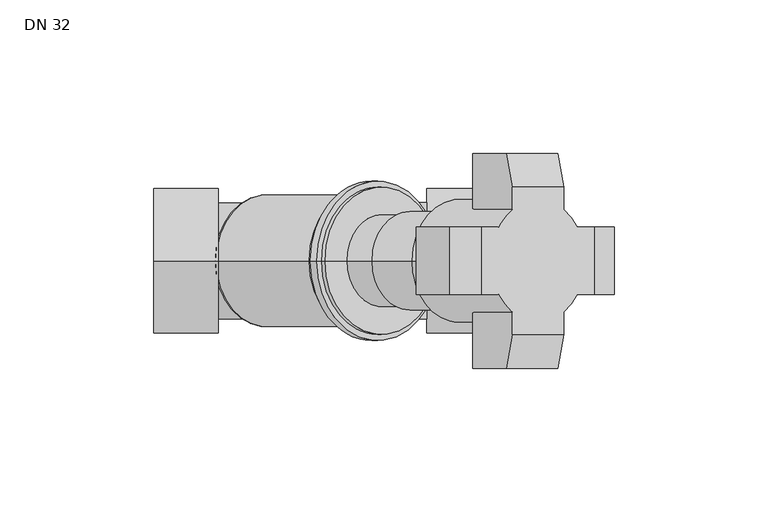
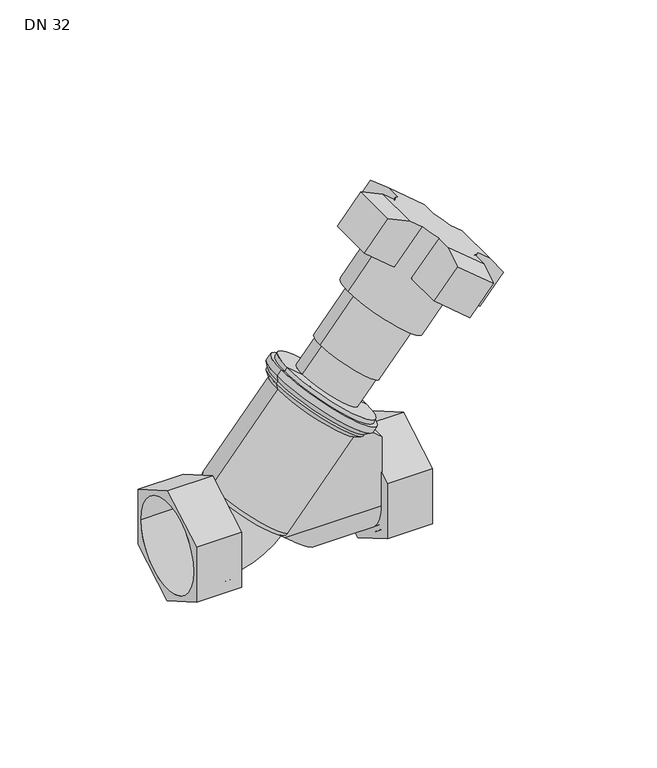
"""IFC4 building model written with IfcOpenShell, lengths in millimetres: valve geometry, 400_56_KOMF_VTR DN20-50 : DN 32."""

from ifc_helpers import new_model, si_unit, point, frame, origin, origin_2d, place, context, project, spatial, polyline, circle_curve, ellipse_curve, trimmed, segment, composite_curve, outline, extrude, source, transform, mapped, element, save
from ifc_brep_helpers import plane_surface, cylinder_surface, revolved_surface, advanced_brep


def dn_32_969b9d6f(model_context):
    return source(origin(), model_context, "Body", "SolidModel", [
        advanced_brep(
        [(-33.9, -23.5, 13.5677313), (-33.9, -23.5, -13.5677313), (-33.9, 0.0, -27.1354627), (-33.9, 23.5, -13.5677313), (-33.9, 23.5, 13.5677313), (-33.9, 0.0, 27.1354627), (-55.0, -23.5, 13.5677313), (-55.0, 0.0, 27.1354627), (-55.0, 23.5, 13.5677313), (-55.0, 23.5, -13.5677313), (-55.0, 0.0, -27.1354627), (-55.0, -23.5, -13.5677313), (-55.0, -21.2, 0.0), (-55.0, 21.2, 0.0), (-35.9, -21.2, 0.0), (-35.9, 21.2, 0.0)],
        [
            (0, 1),
            (1, 2),
            (2, 3),
            (3, 4),
            (4, 5),
            (5, 0),
            (6, 7),
            (7, 8),
            (8, 9),
            (9, 10),
            (10, 11),
            (11, 6),
            (12, 13, circle_curve(frame((-55.0, 0.0, 0.0), z_axis=(1.0, 0.0, 0.0), x_axis=(0.0, 1.0, 0.0)), 21.2)),
            (13, 12, circle_curve(frame((-55.0, 0.0, 0.0), z_axis=(1.0, 0.0, 0.0), x_axis=(0.0, 1.0, 0.0)), 21.2)),
            (0, 6),
            (11, 1),
            (10, 2),
            (9, 3),
            (8, 4),
            (7, 5),
            (14, 15, circle_curve(frame((-35.9, 0.0, 0.0), z_axis=(-1.0, 0.0, 0.0), x_axis=(0.0, 1.0, 0.0)), 21.2)),
            (15, 14, circle_curve(frame((-35.9, 0.0, 0.0), z_axis=(-1.0, 0.0, 0.0), x_axis=(0.0, 1.0, 0.0)), 21.2)),
            (15, 13),
            (12, 14),
        ],
        [
            plane_surface(frame((-33.9, -23.5, 13.5677313), z_axis=(1.0, 0.0, 0.0), x_axis=(0.0, 0.0, -1.0))),
            plane_surface(frame((-55.0, -23.5, 13.5677313), z_axis=(-1.0, 0.0, 0.0), x_axis=(0.0, 0.0, 1.0))),
            plane_surface(frame((-33.9, -23.5, 13.5677313), z_axis=(0.0, -1.0, 0.0), x_axis=(-1.0, 0.0, 0.0))),
            plane_surface(frame((-33.9, -23.5, -13.5677313), z_axis=(0.0, -0.5000000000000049, -0.8660254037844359), x_axis=(-1.0, 0.0, 0.0))),
            plane_surface(frame((-33.9, 0.0, -27.1354627), z_axis=(0.0, 0.5000000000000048, -0.8660254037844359), x_axis=(-1.0, 0.0, 0.0))),
            plane_surface(frame((-33.9, 23.5, -13.5677313), z_axis=(0.0, 1.0, 0.0), x_axis=(-1.0, 0.0, 0.0))),
            plane_surface(frame((-33.9, 23.5, 13.5677313), z_axis=(0.0, 0.500000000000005, 0.8660254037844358), x_axis=(-1.0, 0.0, 0.0))),
            plane_surface(frame((-33.9, 0.0, 27.1354627), z_axis=(0.0, -0.5000000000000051, 0.8660254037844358), x_axis=(-1.0, 0.0, 0.0))),
            plane_surface(frame((-35.9, 21.2, 0.0), z_axis=(-1.0, 0.0, 0.0), x_axis=(0.0, 0.0, 1.0))),
            revolved_surface(polyline([(-35.9, 21.2, 0.0), (-55.0, 21.2, 0.0)]), (-55.0, 0.0, 0.0), (1.0, 0.0, 0.0)),
        ],
        [
            (0, [[1, 2, 3, 4, 5, 6]]),
            (1, [[7, 8, 9, 10, 11, 12], [13, 14]]),
            (2, [[-1, 15, -12, 16]]),
            (3, [[-2, -16, -11, 17]]),
            (4, [[-3, -17, -10, 18]]),
            (5, [[-4, -18, -9, 19]]),
            (6, [[-5, -19, -8, 20]]),
            (7, [[-6, -20, -7, -15]]),
            (8, [[21, 22]]),
            (9, [[-22, 23, -13, 24]]),
            (9, [[-21, -24, -14, -23]]),
        ],
    ),
        advanced_brep(
        [(55.0, -23.5, 13.5677313), (55.0, -23.5, -13.5677313), (55.0, 0.0, -27.1354627), (55.0, 23.5, -13.5677313), (55.0, 23.5, 13.5677313), (55.0, 0.0, 27.1354627), (55.0, 21.2, 0.0), (55.0, -21.2, 0.0), (33.9, -23.5, 13.5677313), (33.9, 0.0, 27.1354627), (33.9, 23.5, 13.5677313), (33.9, 23.5, -13.5677313), (33.9, 0.0, -27.1354627), (33.9, -23.5, -13.5677313), (35.9, -21.2, 0.0), (35.9, 21.2, 0.0)],
        [
            (0, 1),
            (1, 2),
            (2, 3),
            (3, 4),
            (4, 5),
            (5, 0),
            (6, 7, circle_curve(frame((55.0, 0.0, 0.0), z_axis=(-1.0, 0.0, 0.0), x_axis=(0.0, 1.0, 0.0)), 21.2)),
            (7, 6, circle_curve(frame((55.0, 0.0, 0.0), z_axis=(-1.0, 0.0, 0.0), x_axis=(0.0, 1.0, 0.0)), 21.2)),
            (8, 9),
            (9, 10),
            (10, 11),
            (11, 12),
            (12, 13),
            (13, 8),
            (0, 8),
            (13, 1),
            (12, 2),
            (11, 3),
            (10, 4),
            (9, 5),
            (14, 15, circle_curve(frame((35.9, 0.0, 0.0), z_axis=(1.0, 0.0, 0.0), x_axis=(0.0, 1.0, 0.0)), 21.2)),
            (15, 14, circle_curve(frame((35.9, 0.0, 0.0), z_axis=(1.0, 0.0, 0.0), x_axis=(0.0, 1.0, 0.0)), 21.2)),
            (14, 7),
            (6, 15),
        ],
        [
            plane_surface(frame((55.0, -23.5, 13.5677313), z_axis=(1.0, 0.0, 0.0), x_axis=(0.0, 0.0, -1.0))),
            plane_surface(frame((33.9, -23.5, 13.5677313), z_axis=(-1.0, 0.0, 0.0), x_axis=(0.0, 0.0, 1.0))),
            plane_surface(frame((55.0, -23.5, 13.5677313), z_axis=(0.0, -1.0, 0.0), x_axis=(-1.0, 0.0, 0.0))),
            plane_surface(frame((55.0, -23.5, -13.5677313), z_axis=(0.0, -0.5000000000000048, -0.8660254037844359), x_axis=(-1.0, 0.0, 0.0))),
            plane_surface(frame((55.0, 0.0, -27.1354627), z_axis=(0.0, 0.5000000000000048, -0.8660254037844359), x_axis=(-1.0, 0.0, 0.0))),
            plane_surface(frame((55.0, 23.5, -13.5677313), z_axis=(0.0, 1.0, 0.0), x_axis=(-1.0, 0.0, 0.0))),
            plane_surface(frame((55.0, 23.5, 13.5677313), z_axis=(0.0, 0.5000000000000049, 0.8660254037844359), x_axis=(-1.0, 0.0, 0.0))),
            plane_surface(frame((55.0, 0.0, 27.1354627), z_axis=(0.0, -0.5000000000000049, 0.8660254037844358), x_axis=(-1.0, 0.0, 0.0))),
            plane_surface(frame((35.9, 21.2, 0.0), z_axis=(1.0, 0.0, 0.0), x_axis=(0.0, 0.0, -1.0))),
            revolved_surface(polyline([(55.0, 21.2, 0.0), (35.9, 21.2, 0.0)]), (35.9, 0.0, 0.0), (1.0, 0.0, 0.0)),
        ],
        [
            (0, [[1, 2, 3, 4, 5, 6], [7, 8]]),
            (1, [[9, 10, 11, 12, 13, 14]]),
            (2, [[-1, 15, -14, 16]]),
            (3, [[-2, -16, -13, 17]]),
            (4, [[-3, -17, -12, 18]]),
            (5, [[-4, -18, -11, 19]]),
            (6, [[-5, -19, -10, 20]]),
            (7, [[-6, -20, -9, -15]]),
            (8, [[21, 22]]),
            (9, [[-21, 23, -7, 24]]),
            (9, [[-22, -24, -8, -23]]),
        ],
    ),
        extrude(outline(polyline([(19.0, 35.9), (38.6390767, 32.9270418), (51.2176131, 17.9365258), (0.0, 20.5983845), (0.0, 35.9), (19.0, 35.9)])), frame((0.0, -2.0, 0.0), z_axis=(0.0, 1.0, 0.0), x_axis=(0.0, 0.0, 1.0)), (0.0, 0.0, 1.0), 4.0),
        extrude(outline(composite_curve([segment(trimmed(circle_curve(origin_2d(), 21.2), [point((0.0, -21.2))], [point((0.0, 21.2))], False, "CARTESIAN"), True, "CONTINUOUS"), segment(trimmed(circle_curve(origin_2d(), 21.2), [point((0.0, 21.2))], [point((0.0, -21.2))], False, "CARTESIAN"), True, "CONTINUOUS")], self_intersect=False)), frame((33.9, 0.0, 0.0), z_axis=(1.0, 0.0, 0.0), x_axis=(0.0, 1.0, 0.0)), (0.0, 0.0, 1.0), 2.0),
        advanced_brep(
        [(19.222101, 0.0, 52.749702), (37.6071676, 0.0, 37.3227994), (0.8370344, 0.0, 68.1766046), (-34.2830222, 0.0, 19.3213938), (-4.4072889, 0.0, -5.747323), (-19.3451556, 0.0, 6.7870354), (-3.6757306, 0.0, 58.9091912), (29.2641804, 0.0, 31.269324), (-1.5896248, 0.0, -5.5008093), (-34.5295359, 0.0, 22.1390579), (-4.3052665, 0.0, 62.0482491), (32.4648668, 0.0, 31.1944438), (-3.6624789, 0.0, 62.8142935), (33.1076544, 0.0, 31.9604883), (-3.9089926, 0.0, 65.6319576), (35.9253185, 0.0, 32.2070019), (-1.9806297, 0.0, 67.930091), (37.8536813, 0.0, 34.5051353), (-0.4485409, 0.0, 66.6445157), (36.3215924, 0.0, 35.7907105)],
        [
            (0, 1),
            (1, 2, circle_curve(frame((19.222101, 0.0, 52.749702), z_axis=(0.6427876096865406, 0.0, 0.7660444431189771), x_axis=(0.7660444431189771, 0.0, -0.6427876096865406)), 24.0)),
            (2, 0),
            (2, 1, circle_curve(frame((19.222101, 0.0, 52.749702), z_axis=(0.6427876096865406, 0.0, 0.7660444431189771), x_axis=(0.7660444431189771, 0.0, -0.6427876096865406)), 24.0)),
            (3, 4, circle_curve(frame((-19.3451556, 0.0, 6.7870354), z_axis=(-0.6427876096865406, 0.0, -0.7660444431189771), x_axis=(0.7660444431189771, 0.0, -0.6427876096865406)), 19.5)),
            (4, 5),
            (5, 3),
            (4, 3, circle_curve(frame((-19.3451556, 0.0, 6.7870354), z_axis=(-0.6427876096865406, 0.0, -0.7660444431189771), x_axis=(0.7660444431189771, 0.0, -0.6427876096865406)), 19.5)),
            (6, 7, circle_curve(frame((12.7942249, 0.0, 45.0892576), z_axis=(-0.6427876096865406, 0.0, -0.7660444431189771), x_axis=(0.7660444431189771, 0.0, -0.6427876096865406)), 21.5)),
            (7, 8),
            (8, 9, circle_curve(frame((-18.0595804, 0.0, 8.3191243), z_axis=(0.6427876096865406, 0.0, 0.7660444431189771), x_axis=(0.7660444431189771, 0.0, -0.6427876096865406)), 21.5)),
            (9, 6),
            (7, 6, circle_curve(frame((12.7942249, 0.0, 45.0892576), z_axis=(-0.6427876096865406, 0.0, -0.7660444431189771), x_axis=(0.7660444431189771, 0.0, -0.6427876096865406)), 21.5)),
            (9, 8, circle_curve(frame((-18.0595804, 0.0, 8.3191243), z_axis=(0.6427876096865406, 0.0, 0.7660444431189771), x_axis=(0.7660444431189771, 0.0, -0.6427876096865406)), 21.5)),
            (6, 10),
            (10, 11, circle_curve(frame((14.0798001, 0.0, 46.6213465), z_axis=(-0.6427876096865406, 0.0, -0.7660444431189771), x_axis=(0.7660444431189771, 0.0, -0.6427876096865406)), 24.0)),
            (11, 7),
            (11, 10, circle_curve(frame((14.0798001, 0.0, 46.6213465), z_axis=(-0.6427876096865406, 0.0, -0.7660444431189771), x_axis=(0.7660444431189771, 0.0, -0.6427876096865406)), 24.0)),
            (10, 12),
            (12, 13, circle_curve(frame((14.7225877, 0.0, 47.3873909), z_axis=(-0.6427876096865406, 0.0, -0.7660444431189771), x_axis=(0.7660444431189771, 0.0, -0.6427876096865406)), 24.0)),
            (13, 11),
            (13, 12, circle_curve(frame((14.7225877, 0.0, 47.3873909), z_axis=(-0.6427876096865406, 0.0, -0.7660444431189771), x_axis=(0.7660444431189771, 0.0, -0.6427876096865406)), 24.0)),
            (12, 14),
            (14, 15, circle_curve(frame((16.008163, 0.0, 48.9194798), z_axis=(-0.6427876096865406, 0.0, -0.7660444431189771), x_axis=(0.7660444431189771, 0.0, -0.6427876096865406)), 26.0)),
            (15, 13),
            (15, 14, circle_curve(frame((16.008163, 0.0, 48.9194798), z_axis=(-0.6427876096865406, 0.0, -0.7660444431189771), x_axis=(0.7660444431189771, 0.0, -0.6427876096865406)), 26.0)),
            (14, 16),
            (16, 17, circle_curve(frame((17.9365258, 0.0, 51.2176131), z_axis=(-0.6427876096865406, 0.0, -0.7660444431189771), x_axis=(0.7660444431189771, 0.0, -0.6427876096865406)), 26.0)),
            (17, 15),
            (17, 16, circle_curve(frame((17.9365258, 0.0, 51.2176131), z_axis=(-0.6427876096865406, 0.0, -0.7660444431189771), x_axis=(0.7660444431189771, 0.0, -0.6427876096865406)), 26.0)),
            (16, 18),
            (18, 19, circle_curve(frame((17.9365258, 0.0, 51.2176131), z_axis=(-0.6427876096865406, 0.0, -0.7660444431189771), x_axis=(0.7660444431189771, 0.0, -0.6427876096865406)), 24.0)),
            (19, 17),
            (19, 18, circle_curve(frame((17.9365258, 0.0, 51.2176131), z_axis=(-0.6427876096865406, 0.0, -0.7660444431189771), x_axis=(0.7660444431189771, 0.0, -0.6427876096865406)), 24.0)),
            (1, 19),
            (18, 2),
            (3, 9, circle_curve(frame((-32.997447, 0.0, 20.8534827), z_axis=(0.0, 1.0000000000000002, 0.0), x_axis=(0.6427876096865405, 0.0, 0.7660444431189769)), 2.0)),
            (8, 4, circle_curve(frame((-3.1217137, 0.0, -4.2152341), z_axis=(0.0, 1.0000000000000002, 0.0), x_axis=(0.6427876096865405, 0.0, 0.7660444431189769)), 2.0)),
        ],
        [
            plane_surface(frame((19.222101, 0.0, 52.749702), z_axis=(0.6427876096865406, 0.0, 0.7660444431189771), x_axis=(0.7660444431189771, 0.0, -0.6427876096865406))),
            plane_surface(frame((-19.3451556, 0.0, 6.7870354), z_axis=(-0.6427876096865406, 0.0, -0.7660444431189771), x_axis=(0.7660444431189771, 0.0, -0.6427876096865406))),
            cylinder_surface(frame((-25.0401545, 0.0, 0.0), z_axis=(0.6427876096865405, 0.0, 0.7660444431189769), x_axis=(0.7660444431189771, 0.0, -0.6427876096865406)), 21.5),
            revolved_surface(polyline([(29.2641804, 0.0, 31.269324), (32.4648668, 0.0, 31.1944438)]), (-25.0401545, 0.0, 0.0), (0.6427876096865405, 0.0, 0.7660444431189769)),
            cylinder_surface(frame((-25.0401545, 0.0, 0.0), z_axis=(0.6427876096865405, 0.0, 0.7660444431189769), x_axis=(0.7660444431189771, 0.0, -0.6427876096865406)), 24.0),
            revolved_surface(polyline([(33.1076544, 0.0, 31.9604883), (35.9253185, 0.0, 32.2070019)]), (-25.0401545, 0.0, 0.0), (0.6427876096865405, 0.0, 0.7660444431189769)),
            cylinder_surface(frame((-25.0401545, 0.0, 0.0), z_axis=(0.6427876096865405, 0.0, 0.7660444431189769), x_axis=(0.7660444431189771, 0.0, -0.6427876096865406)), 26.0),
            plane_surface(frame((17.9365258, 0.0, 51.2176131), z_axis=(0.6427876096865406, 0.0, 0.7660444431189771), x_axis=(0.7660444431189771, 0.0, -0.6427876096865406))),
            revolved_surface(trimmed(ellipse_curve(frame((-3.1217137, 0.0, -4.2152341), z_axis=(0.0, -1.0000000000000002, 0.0), x_axis=(0.6427876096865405, 0.0, 0.7660444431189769)), 2.0, 2.0), [point((-4.4072889, 0.0, -5.747323))], [point((-1.5896248, 0.0, -5.5008093))], True, "CARTESIAN"), (-25.0401545, 0.0, 0.0), (0.6427876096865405, 0.0, 0.7660444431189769)),
        ],
        [
            (0, [[1, 2, 3]]),
            (0, [[-1, -3, 4]]),
            (1, [[5, 6, 7]]),
            (1, [[-6, 8, -7]]),
            (2, [[9, 10, 11, 12]]),
            (2, [[-10, 13, -12, 14]]),
            (3, [[-9, 15, 16, 17]]),
            (3, [[-13, -17, 18, -15]]),
            (4, [[-16, 19, 20, 21]]),
            (4, [[-18, -21, 22, -19]]),
            (5, [[-20, 23, 24, 25]]),
            (5, [[-22, -25, 26, -23]]),
            (6, [[-24, 27, 28, 29]]),
            (6, [[-26, -29, 30, -27]]),
            (7, [[-28, 31, 32, 33]]),
            (7, [[-30, -33, 34, -31]]),
            (4, [[-2, 35, -32, 36]]),
            (4, [[-4, -36, -34, -35]]),
            (8, [[-5, 37, -11, 38]]),
            (8, [[-8, -38, -14, -37]]),
        ],
    ),
        advanced_brep(
        [(16.9278345, 0.0, 73.351359), (39.9091677, 0.0, 54.0677307), (30.7127676, 0.0, 43.1078879), (7.7314344, 0.0, 62.3915161), (16.16179, 0.0, 73.9941466), (40.6752122, 0.0, 53.4249431), (32.2314803, 0.0, 93.1452577), (56.7449024, 0.0, 72.5760542), (29.1673025, 0.0, 95.7164081), (59.8090802, 0.0, 70.0049037), (42.0230547, 0.0, 111.037297), (44.5484787, 11.0, 108.9182146), (57.4042309, 11.0, 124.2391035), (61.7732069, 16.7032931, 120.5730974), (48.9174547, 16.7032931, 105.2522085), (65.7704324, 16.7032931, 91.1108811), (78.6261846, 16.7032931, 106.43177), (82.9951606, 11.0, 102.7657638), (70.1394084, 11.0, 87.444875), (72.6648324, 0.0, 85.3257926), (70.1394084, -11.0, 87.444875), (82.9951606, -11.0, 102.7657638), (78.6261846, -16.7032931, 106.43177), (65.7704324, -16.7032931, 91.1108811), (48.9174547, -16.7032931, 105.2522085), (61.7732069, -16.7032931, 120.5730974), (57.4042309, -11.0, 124.2391035), (44.5484787, -11.0, 108.9182146), (88.5847624, -11.0, 98.075531), (88.5847624, 11.0, 98.075531), (78.6261846, 24.0, 106.43177), (61.7732069, 24.0, 120.5730974), (51.8146291, 11.0, 128.9293363), (51.8146291, -11.0, 128.9293363), (61.7732069, -24.0, 120.5730974), (78.6261846, -24.0, 106.43177), (19.222101, 0.0, 52.749702), (41.4597774, -11.0, 133.7018667), (30.532388, -11.0, 120.6791111), (84.155499, -11.0, 75.6839785), (95.0828884, -11.0, 88.706734), (95.0828884, 11.0, 88.706734), (84.155499, 11.0, 75.6839785), (30.532388, 11.0, 120.6791111), (41.4597774, 11.0, 133.7018667), (65.7704324, 35.0, 91.1108811), (76.6978218, 35.0, 104.1336366), (76.6978218, -35.0, 104.1336366), (65.7704324, -35.0, 91.1108811), (48.9174547, -35.0, 105.2522085), (59.844844, -35.0, 118.274964), (59.844844, 35.0, 118.274964), (48.9174547, 35.0, 105.2522085)],
        [
            (0, 1, circle_curve(frame((28.4185011, 0.0, 63.7095449), z_axis=(-0.6427876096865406, 0.0, -0.7660444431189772), x_axis=(0.7660444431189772, 0.0, -0.6427876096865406)), 15.0)),
            (1, 2),
            (2, 3, circle_curve(frame((19.222101, 0.0, 52.749702), z_axis=(0.6427876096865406, 0.0, 0.7660444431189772), x_axis=(0.7660444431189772, 0.0, -0.6427876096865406)), 15.0)),
            (3, 0),
            (1, 0, circle_curve(frame((28.4185011, 0.0, 63.7095449), z_axis=(-0.6427876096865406, 0.0, -0.7660444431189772), x_axis=(0.7660444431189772, 0.0, -0.6427876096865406)), 15.0)),
            (3, 2, circle_curve(frame((19.222101, 0.0, 52.749702), z_axis=(0.6427876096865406, 0.0, 0.7660444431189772), x_axis=(0.7660444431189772, 0.0, -0.6427876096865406)), 15.0)),
            (0, 4),
            (4, 5, circle_curve(frame((28.4185011, 0.0, 63.7095449), z_axis=(-0.6427876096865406, 0.0, -0.7660444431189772), x_axis=(0.7660444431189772, 0.0, -0.6427876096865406)), 16.0)),
            (5, 1),
            (5, 4, circle_curve(frame((28.4185011, 0.0, 63.7095449), z_axis=(-0.6427876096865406, 0.0, -0.7660444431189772), x_axis=(0.7660444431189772, 0.0, -0.6427876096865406)), 16.0)),
            (4, 6),
            (6, 7, circle_curve(frame((44.4881913, 0.0, 82.8606559), z_axis=(-0.6427876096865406, 0.0, -0.7660444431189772), x_axis=(0.7660444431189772, 0.0, -0.6427876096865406)), 16.0)),
            (7, 5),
            (7, 6, circle_curve(frame((44.4881913, 0.0, 82.8606559), z_axis=(-0.6427876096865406, 0.0, -0.7660444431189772), x_axis=(0.7660444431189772, 0.0, -0.6427876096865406)), 16.0)),
            (6, 8),
            (8, 9, circle_curve(frame((44.4881913, 0.0, 82.8606559), z_axis=(-0.6427876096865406, 0.0, -0.7660444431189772), x_axis=(0.7660444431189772, 0.0, -0.6427876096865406)), 20.0)),
            (9, 7),
            (9, 8, circle_curve(frame((44.4881913, 0.0, 82.8606559), z_axis=(-0.6427876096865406, 0.0, -0.7660444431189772), x_axis=(0.7660444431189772, 0.0, -0.6427876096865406)), 20.0)),
            (8, 10),
            (10, 11, circle_curve(frame((57.3439435, 0.0, 98.1815448), z_axis=(-0.6427876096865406, 0.0, -0.7660444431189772), x_axis=(0.7660444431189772, 0.0, -0.6427876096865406)), 20.0)),
            (11, 12),
            (12, 13, circle_curve(frame((70.1996957, 0.0, 113.5024337), z_axis=(-0.6427876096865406, 0.0, -0.7660444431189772), x_axis=(0.7660444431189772, 0.0, -0.6427876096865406)), 20.0)),
            (13, 14),
            (14, 15, circle_curve(frame((57.3439435, 0.0, 98.1815448), z_axis=(-0.6427876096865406, 0.0, -0.7660444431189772), x_axis=(0.7660444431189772, 0.0, -0.6427876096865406)), 20.0)),
            (15, 16),
            (16, 17, circle_curve(frame((70.1996957, 0.0, 113.5024337), z_axis=(-0.6427876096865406, 0.0, -0.7660444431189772), x_axis=(0.7660444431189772, 0.0, -0.6427876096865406)), 20.0)),
            (17, 18),
            (18, 19, circle_curve(frame((57.3439435, 0.0, 98.1815448), z_axis=(-0.6427876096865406, 0.0, -0.7660444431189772), x_axis=(0.7660444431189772, 0.0, -0.6427876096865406)), 20.0)),
            (19, 9),
            (19, 20, circle_curve(frame((57.3439435, 0.0, 98.1815448), z_axis=(-0.6427876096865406, 0.0, -0.7660444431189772), x_axis=(0.7660444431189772, 0.0, -0.6427876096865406)), 20.0)),
            (20, 21),
            (21, 22, circle_curve(frame((70.1996957, 0.0, 113.5024337), z_axis=(-0.6427876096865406, 0.0, -0.7660444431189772), x_axis=(0.7660444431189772, 0.0, -0.6427876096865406)), 20.0)),
            (22, 23),
            (23, 24, circle_curve(frame((57.3439435, 0.0, 98.1815448), z_axis=(-0.6427876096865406, 0.0, -0.7660444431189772), x_axis=(0.7660444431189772, 0.0, -0.6427876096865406)), 20.0)),
            (24, 25),
            (25, 26, circle_curve(frame((70.1996957, 0.0, 113.5024337), z_axis=(-0.6427876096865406, 0.0, -0.7660444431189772), x_axis=(0.7660444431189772, 0.0, -0.6427876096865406)), 20.0)),
            (26, 27),
            (27, 10, circle_curve(frame((57.3439435, 0.0, 98.1815448), z_axis=(-0.6427876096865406, 0.0, -0.7660444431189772), x_axis=(0.7660444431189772, 0.0, -0.6427876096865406)), 20.0)),
            (28, 29),
            (29, 17),
            (16, 30),
            (30, 31),
            (31, 13),
            (12, 32),
            (32, 33),
            (33, 26),
            (25, 34),
            (34, 35),
            (35, 22),
            (21, 28),
            (2, 36),
            (36, 3),
            (33, 37),
            (37, 38),
            (38, 27),
            (39, 40),
            (40, 28),
            (20, 39),
            (29, 41),
            (41, 42),
            (42, 18),
            (43, 44),
            (44, 32),
            (11, 43),
            (44, 37),
            (43, 38),
            (42, 39),
            (41, 40),
            (45, 46),
            (46, 30),
            (15, 45),
            (35, 47),
            (47, 48),
            (48, 23),
            (49, 50),
            (50, 34),
            (24, 49),
            (31, 51),
            (51, 52),
            (52, 14),
            (45, 52),
            (51, 46),
            (50, 47),
            (49, 48),
        ],
        [
            cylinder_surface(frame((-25.0401545, 0.0, 0.0), z_axis=(0.6427876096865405, 0.0, 0.766044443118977), x_axis=(0.7660444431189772, 0.0, -0.6427876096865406)), 15.0),
            plane_surface(frame((28.4185011, 0.0, 63.7095449), z_axis=(-0.6427876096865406, 0.0, -0.7660444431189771), x_axis=(0.7660444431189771, 0.0, -0.6427876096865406))),
            cylinder_surface(frame((-25.0401545, 0.0, 0.0), z_axis=(0.6427876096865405, 0.0, 0.766044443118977), x_axis=(0.7660444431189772, 0.0, -0.6427876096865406)), 16.0),
            plane_surface(frame((44.4881913, 0.0, 82.8606559), z_axis=(-0.6427876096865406, 0.0, -0.7660444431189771), x_axis=(0.7660444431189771, 0.0, -0.6427876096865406))),
            cylinder_surface(frame((-25.0401545, 0.0, 0.0), z_axis=(0.6427876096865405, 0.0, 0.766044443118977), x_axis=(0.7660444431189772, 0.0, -0.6427876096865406)), 20.0),
            plane_surface(frame((70.1996957, 0.0, 113.5024337), z_axis=(0.6427876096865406, 0.0, 0.7660444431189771), x_axis=(0.7660444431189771, 0.0, -0.6427876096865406))),
            plane_surface(frame((19.222101, 0.0, 52.749702), z_axis=(-0.6427876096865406, 0.0, -0.7660444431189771), x_axis=(0.7660444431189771, 0.0, -0.6427876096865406))),
            plane_surface(frame((51.8146291, -11.0, 128.9293363), z_axis=(0.0, -1.0, 0.0), x_axis=(-0.7660444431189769, 0.0, 0.6427876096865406))),
            plane_surface(frame((51.8146291, 11.0, 128.9293363), z_axis=(0.0, 1.0, 0.0), x_axis=(0.7660444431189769, 0.0, -0.6427876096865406))),
            plane_surface(frame((51.8146291, -11.0, 128.9293363), z_axis=(0.4185786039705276, 0.0, 0.9081805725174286), x_axis=(0.0, 1.0, 0.0))),
            plane_surface(frame((41.4597774, -11.0, 133.7018667), z_axis=(-0.7660444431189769, 0.0, 0.6427876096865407), x_axis=(0.0, 1.0, 0.0))),
            plane_surface(frame((30.532388, -11.0, 120.6791111), z_axis=(-0.6427876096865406, 0.0, -0.7660444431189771), x_axis=(0.0, 1.0, 0.0))),
            plane_surface(frame((84.155499, -11.0, 75.6839785), z_axis=(0.7660444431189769, 0.0, -0.6427876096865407), x_axis=(0.0, 1.0, 0.0))),
            plane_surface(frame((95.0828884, -11.0, 88.706734), z_axis=(0.821697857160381, 0.0, 0.5699233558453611), x_axis=(0.0, 1.0, 0.0))),
            plane_surface(frame((76.6978218, 35.0, 104.1336366), z_axis=(0.766044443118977, 0.0, -0.6427876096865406), x_axis=(0.6427876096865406, 0.0, 0.766044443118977))),
            plane_surface(frame((59.844844, 35.0, 118.274964), z_axis=(-0.766044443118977, 0.0, 0.6427876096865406), x_axis=(-0.6427876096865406, 0.0, -0.766044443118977))),
            plane_surface(frame((65.7704324, 35.0, 91.1108811), z_axis=(0.0, 1.0, 0.0), x_axis=(-0.7660444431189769, 0.0, 0.6427876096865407))),
            plane_surface(frame((76.6978218, 35.0, 104.1336366), z_axis=(0.6201382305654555, 0.2631174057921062, 0.7390519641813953), x_axis=(-0.7660444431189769, 0.0, 0.6427876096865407))),
            plane_surface(frame((78.6261846, -24.0, 106.43177), z_axis=(0.6201382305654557, -0.26311740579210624, 0.7390519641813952), x_axis=(-0.7660444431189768, 0.0, 0.642787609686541))),
            plane_surface(frame((76.6978218, -35.0, 104.1336366), z_axis=(0.0, -1.0, 0.0), x_axis=(-0.7660444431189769, 0.0, 0.6427876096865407))),
            plane_surface(frame((65.7704324, -35.0, 91.1108811), z_axis=(-0.6427876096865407, 0.0, -0.7660444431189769), x_axis=(-0.7660444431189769, 0.0, 0.6427876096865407))),
        ],
        [
            (0, [[1, 2, 3, 4]]),
            (0, [[-2, 5, -4, 6]]),
            (1, [[-1, 7, 8, 9]]),
            (1, [[-5, -9, 10, -7]]),
            (2, [[-8, 11, 12, 13]]),
            (2, [[-10, -13, 14, -11]]),
            (3, [[-12, 15, 16, 17]]),
            (3, [[-14, -17, 18, -15]]),
            (4, [[-16, 19, 20, 21, 22, 23, 24, 25, 26, 27, 28, 29]]),
            (4, [[-18, -29, 30, 31, 32, 33, 34, 35, 36, 37, 38, -19]]),
            (5, [[39, 40, -26, 41, 42, 43, -22, 44, 45, 46, -36, 47, 48, 49, -32, 50]]),
            (6, [[-3, 51, 52]]),
            (6, [[-6, -52, -51]]),
            (7, [[53, 54, 55, -37, -46]]),
            (7, [[56, 57, -50, -31, 58]]),
            (8, [[59, 60, 61, -27, -40]]),
            (8, [[62, 63, -44, -21, 64]]),
            (9, [[-53, -45, -63, 65]]),
            (10, [[-54, -65, -62, 66]]),
            (11, [[-66, -64, -20, -38, -55]]),
            (11, [[67, -58, -30, -28, -61]]),
            (12, [[-56, -67, -60, 68]]),
            (13, [[-57, -68, -59, -39]]),
            (14, [[69, 70, -41, -25, 71]]),
            (14, [[72, 73, 74, -33, -49]]),
            (15, [[75, 76, -47, -35, 77]]),
            (15, [[78, 79, 80, -23, -43]]),
            (16, [[-69, 81, -79, 82]]),
            (17, [[-70, -82, -78, -42]]),
            (18, [[-72, -48, -76, 83]]),
            (19, [[-73, -83, -75, 84]]),
            (20, [[-81, -71, -24, -80]]),
            (20, [[-84, -77, -34, -74]]),
        ],
    ),
        extrude(outline(composite_curve([segment(trimmed(circle_curve(origin_2d(), 21.2), [point((0.0, -21.2))], [point((0.0, 21.2))], False, "CARTESIAN"), True, "CONTINUOUS"), segment(trimmed(circle_curve(origin_2d(), 21.2), [point((0.0, 21.2))], [point((0.0, -21.2))], False, "CARTESIAN"), True, "CONTINUOUS")], self_intersect=False)), frame((-35.9, 0.0, 0.0), z_axis=(1.0, 0.0, 0.0), x_axis=(0.0, 1.0, 0.0)), (0.0, 0.0, 1.0), 2.0),
        advanced_brep(
        [(-33.9, 0.0, -19.0), (-33.9, 0.0, 19.0), (-4.7903112, 0.0, -5.4259292)],
        [
            (0, 1, circle_curve(frame((-33.9, 0.0, 0.0), z_axis=(-1.0, 0.0, 0.0), x_axis=(0.0, 0.0, 1.0)), 19.0)),
            (1, 0, circle_curve(frame((-33.9, 0.0, 0.0), z_axis=(-1.0, 0.0, 0.0), x_axis=(0.0, 0.0, 1.0)), 19.0)),
            (2, 1, circle_curve(frame((-19.3451556, 0.0, 6.7870354), z_axis=(0.6427876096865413, 0.0, 0.7660444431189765), x_axis=(-0.7660444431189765, 0.0, 0.6427876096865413)), 19.0)),
            (1, 2, circle_curve(frame((-19.3451556, 0.0, 6.7870354), z_axis=(0.6427876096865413, 0.0, 0.7660444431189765), x_axis=(-0.7660444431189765, 0.0, 0.6427876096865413)), 19.0)),
            (2, 0, circle_curve(frame((-33.9, 0.0, 19.0), z_axis=(0.0, 1.0, 0.0), x_axis=(0.0, 0.0, -1.0)), 38.0)),
        ],
        [
            plane_surface(frame((-33.9, 1427.1039728, 19.0), z_axis=(-1.0, 0.0, 0.0), x_axis=(0.0, 0.0, -1.0))),
            plane_surface(frame((-33.9, 1427.1039728, 19.0), z_axis=(0.6427876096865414, 0.0, 0.7660444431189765), x_axis=(0.7660444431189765, 0.0, -0.6427876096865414))),
            revolved_surface(trimmed(ellipse_curve(frame((-33.9, 0.0, 0.0), z_axis=(1.0, 0.0, 0.0), x_axis=(0.0, 0.0, 1.0)), 19.0, 19.0), [point((-33.9, 0.0, -19.0))], [point((-33.9, 0.0, 19.0))], True, "CARTESIAN"), (-33.9, 1427.1039728, 19.0), (0.0, 1.0, 0.0)),
            revolved_surface(trimmed(ellipse_curve(frame((-33.9, 0.0, 0.0), z_axis=(1.0, 0.0, 0.0), x_axis=(0.0, 0.0, 1.0)), 19.0, 19.0), [point((-33.9, 0.0, 19.0))], [point((-33.9, 0.0, -19.0))], True, "CARTESIAN"), (-33.9, 1427.1039728, 19.0), (0.0, 1.0, 0.0)),
        ],
        [
            (0, [[1, 2]]),
            (1, [[3, 4]]),
            (2, [[5, -2, -3]]),
            (3, [[-1, -5, -4]]),
        ],
    ),
        advanced_brep(
        [(35.9, -19.0, 0.0), (35.9, 19.0, 0.0), (33.9, -19.0, 0.0), (-11.2566817, -19.0, 0.0), (-11.2566817, 19.0, 0.0), (33.9, 19.0, 0.0), (-19.3451556, 17.7464405, 6.7870354), (-19.3451556, -17.7464405, 6.7870354), (-19.3451556, -19.0, 6.7870354), (-19.3451556, 19.0, 6.7870354), (33.9, -19.0, 33.9064459), (16.008163, -19.0, 48.9194798), (33.9, 19.0, 33.9064459), (16.008163, 19.0, 48.9194798)],
        [
            (0, 1, circle_curve(frame((35.9, 0.0, 0.0), z_axis=(1.0, 0.0, 0.0), x_axis=(0.0, 1.0, 0.0)), 19.0)),
            (1, 0, circle_curve(frame((35.9, 0.0, 0.0), z_axis=(1.0, 0.0, 0.0), x_axis=(0.0, 1.0, 0.0)), 19.0)),
            (0, 2),
            (2, 3),
            (3, 4, ellipse_curve(frame((-11.2566817, 0.0, 0.0), z_axis=(0.6427876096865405, 0.0, 0.7660444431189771), x_axis=(0.766044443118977, 0.0, -0.6427876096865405)), 29.5587527, 19.0)),
            (4, 5),
            (5, 1),
            (5, 2, circle_curve(frame((33.9, 0.0, 0.0), z_axis=(1.0, 0.0, 0.0), x_axis=(0.0, 1.0, 0.0)), 19.0)),
            (6, 7, ellipse_curve(frame((-11.2566817, 0.0, 0.0), z_axis=(0.6427876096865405, 0.0, 0.7660444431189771), x_axis=(0.766044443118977, 0.0, -0.6427876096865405)), 29.5587527, 19.0)),
            (7, 6, ellipse_curve(frame((-25.0401545, 0.0, 0.0), z_axis=(-0.7660444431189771, 0.0, 0.6427876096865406), x_axis=(0.6427876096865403, 0.0, 0.7660444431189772)), 24.8027385, 19.0)),
            (3, 8),
            (8, 7),
            (6, 9),
            (9, 4),
            (10, 11),
            (11, 8),
            (2, 10),
            (12, 5),
            (9, 13),
            (13, 12),
            (10, 12),
            (13, 11),
        ],
        [
            plane_surface(frame((35.9, 19.0, 0.0), z_axis=(1.0, 0.0, 0.0), x_axis=(0.0, 0.0, 1.0))),
            cylinder_surface(frame((-35.9, 0.0, 0.0), z_axis=(1.0, 0.0, 0.0), x_axis=(0.0, 1.0, 0.0)), 19.0),
            plane_surface(frame((-19.3451556, 0.0, 6.7870354), z_axis=(-0.6427876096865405, 0.0, -0.7660444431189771), x_axis=(0.7660444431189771, 0.0, -0.6427876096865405))),
            plane_surface(frame((16.008163, -19.0, 48.9194798), z_axis=(0.0, -1.0000000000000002, 0.0), x_axis=(-0.766044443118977, 0.0, 0.6427876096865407))),
            plane_surface(frame((16.008163, 19.0, 48.9194798), z_axis=(0.0, 1.0000000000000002, 0.0), x_axis=(0.766044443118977, 0.0, -0.6427876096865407))),
            plane_surface(frame((33.9, -19.0, 33.9064459), z_axis=(0.6427876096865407, 0.0, 0.766044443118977), x_axis=(0.0, 1.0, 0.0))),
            plane_surface(frame((16.008163, -19.0, 48.9194798), z_axis=(-0.7660444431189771, 0.0, 0.6427876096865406), x_axis=(0.0, 1.0, 0.0))),
            plane_surface(frame((33.9, -19.0, 0.0), z_axis=(1.0, 0.0, 0.0), x_axis=(0.0, 1.0, 0.0))),
        ],
        [
            (0, [[1, 2]]),
            (1, [[-1, 3, 4, 5, 6, 7]]),
            (1, [[-2, -7, 8, -3]]),
            (1, [[9, 10]]),
            (2, [[11, 12, -9, 13, 14, -5]]),
            (3, [[15, 16, -11, -4, 17]]),
            (4, [[18, -6, -14, 19, 20]]),
            (5, [[-15, 21, -20, 22]]),
            (6, [[-16, -22, -19, -13, -10, -12]]),
            (7, [[-17, -8, -18, -21]]),
        ],
    ),
    ])


if __name__ == "__main__":
    model = new_model("IFC4")
    model_context = context("Model", 3, world=origin())
    ifc_project = project(units=[si_unit("LENGTHUNIT", "METRE", prefix="MILLI")], contexts=[model_context])
    site = spatial("IfcSite", under=ifc_project)
    building = spatial("IfcBuilding", under=site)
    placement = place(None, origin())
    dn_32_shape = dn_32_969b9d6f(model_context)
    element("IfcValve", 1, ObjectType="400_56_KOMF_VTR DN20-50 : DN 32", at=placement, inside=building, context=model_context, shape_type="MappedRepresentation", body=[
        mapped(dn_32_shape, transform((0.0, 0.0, 0.0), x_axis=(1.0, 0.0, 0.0), y_axis=(0.0, 1.0, 0.0), z_axis=(0.0, 0.0, 1.0))),
    ])
    save(model, "model.ifc")
